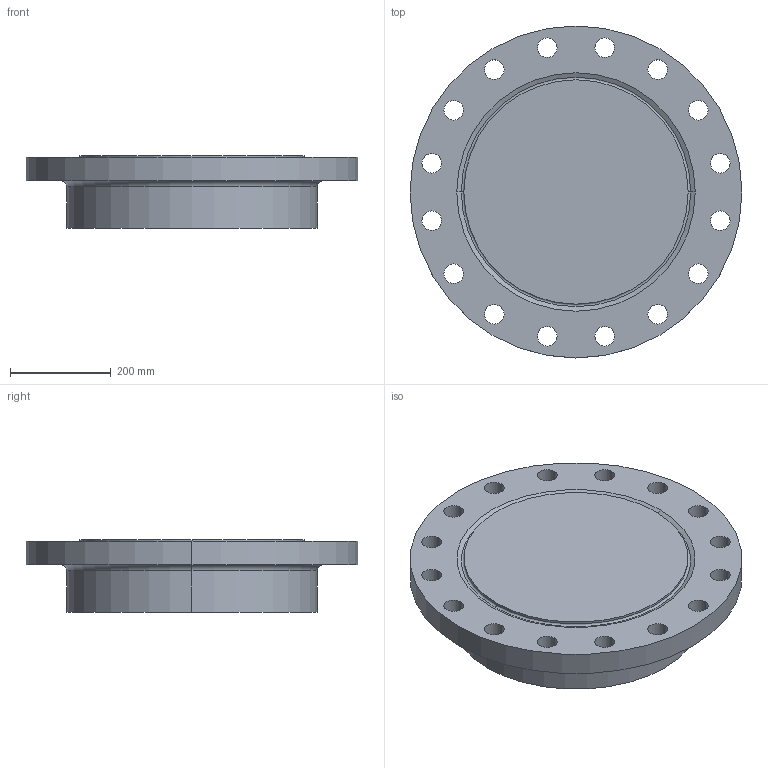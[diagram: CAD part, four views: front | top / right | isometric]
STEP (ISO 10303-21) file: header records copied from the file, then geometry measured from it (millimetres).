
FILE_DESCRIPTION (( 'STEP AP214' ), '1' );
FILE_NAME ('PN40 DN400 Type 21(i) - Type H Face.STEP', '2019-01-05T23:12:33', ( '' ), ( '' ), 'SwSTEP 2.0', 'SolidWorks 2019', '' );
FILE_SCHEMA (( 'AUTOMOTIVE_DESIGN' ));
Length unit declared in the file: millimetre
Products named in the file (1): PN40 DN400 Type 21(i) - Type H Face
Bounding box: 660 x 660 x 145 mm (x, y, z)
Volume: 34141158.2 mm3; surface area: 987076.8 mm2
Topology: 1 solids, 1 shells, 48 faces, 126 edges, 82 vertices
Faces by surface type: cylinder 38, torus 4, plane 4, cone 2
Entity records: 1626 total; most frequent: DIRECTION 310, CARTESIAN_POINT 257, ORIENTED_EDGE 252, AXIS2_PLACEMENT_3D 135, EDGE_CURVE 126, CIRCLE 86, EDGE_LOOP 82, VERTEX_POINT 82
